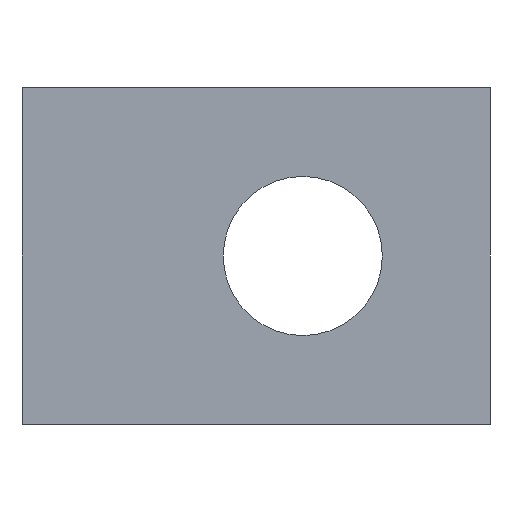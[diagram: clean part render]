
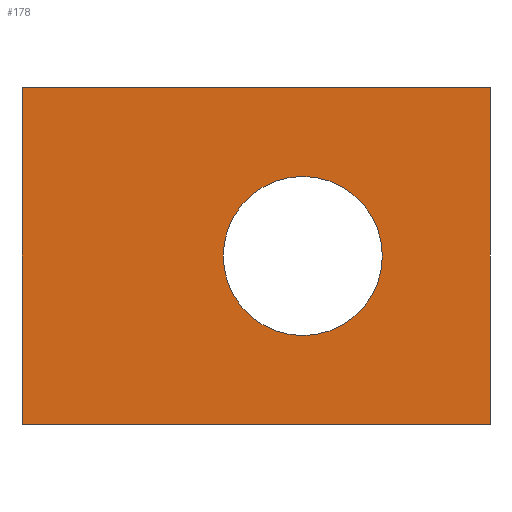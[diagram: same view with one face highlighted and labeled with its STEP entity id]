
A CAD part, front view. The second image highlights one B-rep face of the part: STEP entity #178.
In plain terms, the highlighted planar face has unit normal (0, -1, 0).
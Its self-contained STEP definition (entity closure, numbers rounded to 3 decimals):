
#4 = CARTESIAN_POINT ( 'NONE',  ( 15., 0., 0. ) ) ;
#14 = LINE ( 'NONE', #522, #441 ) ;
#20 = VERTEX_POINT ( 'NONE', #493 ) ;
#34 = EDGE_LOOP ( 'NONE', ( #377 ) ) ;
#37 = DIRECTION ( 'NONE',  ( 0., 1., 0. ) ) ;
#45 = VERTEX_POINT ( 'NONE', #241 ) ;
#53 = PLANE ( 'NONE',  #138 ) ;
#60 = VECTOR ( 'NONE', #391, 1000. ) ;
#62 = LINE ( 'NONE', #95, #60 ) ;
#69 = EDGE_CURVE ( 'NONE', #130, #130, #307, .T. ) ;
#94 = EDGE_CURVE ( 'NONE', #188, #497, #415, .T. ) ;
#95 = CARTESIAN_POINT ( 'NONE',  ( 25., 0., 9. ) ) ;
#130 = VERTEX_POINT ( 'NONE', #131 ) ;
#131 = CARTESIAN_POINT ( 'NONE',  ( 10.75, 0., 0. ) ) ;
#138 = AXIS2_PLACEMENT_3D ( 'NONE', #212, #246, #457 ) ;
#141 = ORIENTED_EDGE ( 'NONE', *, *, #432, .T. ) ;
#149 = LINE ( 'NONE', #300, #429 ) ;
#155 = CARTESIAN_POINT ( 'NONE',  ( 25., 0., 9. ) ) ;
#170 = ORIENTED_EDGE ( 'NONE', *, *, #386, .F. ) ;
#178 = ADVANCED_FACE ( 'NONE', ( #291, #381 ), #53, .F. ) ;
#188 = VERTEX_POINT ( 'NONE', #214 ) ;
#194 = DIRECTION ( 'NONE',  ( 0., 0., -1. ) ) ;
#212 = CARTESIAN_POINT ( 'NONE',  ( 25., 0., 9. ) ) ;
#214 = CARTESIAN_POINT ( 'NONE',  ( 0., 0., 9. ) ) ;
#217 = EDGE_CURVE ( 'NONE', #188, #20, #14, .T. ) ;
#241 = CARTESIAN_POINT ( 'NONE',  ( 25., 0., -9. ) ) ;
#246 = DIRECTION ( 'NONE',  ( 0., 1., 0. ) ) ;
#270 = DIRECTION ( 'NONE',  ( 1., 0., 0. ) ) ;
#281 = CARTESIAN_POINT ( 'NONE',  ( 25., 0., 9. ) ) ;
#287 = EDGE_LOOP ( 'NONE', ( #141, #170, #470, #523 ) ) ;
#291 = FACE_BOUND ( 'NONE', #34, .T. ) ;
#300 = CARTESIAN_POINT ( 'NONE',  ( 25., 0., -9. ) ) ;
#307 = CIRCLE ( 'NONE', #333, 4.25 ) ;
#329 = DIRECTION ( 'NONE',  ( -1., 0., 0. ) ) ;
#333 = AXIS2_PLACEMENT_3D ( 'NONE', #4, #37, #329 ) ;
#340 = DIRECTION ( 'NONE',  ( 1., 0., 0. ) ) ;
#377 = ORIENTED_EDGE ( 'NONE', *, *, #69, .T. ) ;
#381 = FACE_OUTER_BOUND ( 'NONE', #287, .T. ) ;
#386 = EDGE_CURVE ( 'NONE', #497, #45, #62, .T. ) ;
#391 = DIRECTION ( 'NONE',  ( 0., 0., -1. ) ) ;
#415 = LINE ( 'NONE', #281, #491 ) ;
#429 = VECTOR ( 'NONE', #270, 1000. ) ;
#432 = EDGE_CURVE ( 'NONE', #20, #45, #149, .T. ) ;
#441 = VECTOR ( 'NONE', #194, 1000. ) ;
#457 = DIRECTION ( 'NONE',  ( -1., 0., 0. ) ) ;
#470 = ORIENTED_EDGE ( 'NONE', *, *, #94, .F. ) ;
#491 = VECTOR ( 'NONE', #340, 1000. ) ;
#493 = CARTESIAN_POINT ( 'NONE',  ( 0., 0., -9. ) ) ;
#497 = VERTEX_POINT ( 'NONE', #155 ) ;
#522 = CARTESIAN_POINT ( 'NONE',  ( 0., 0., 9. ) ) ;
#523 = ORIENTED_EDGE ( 'NONE', *, *, #217, .T. ) ;
